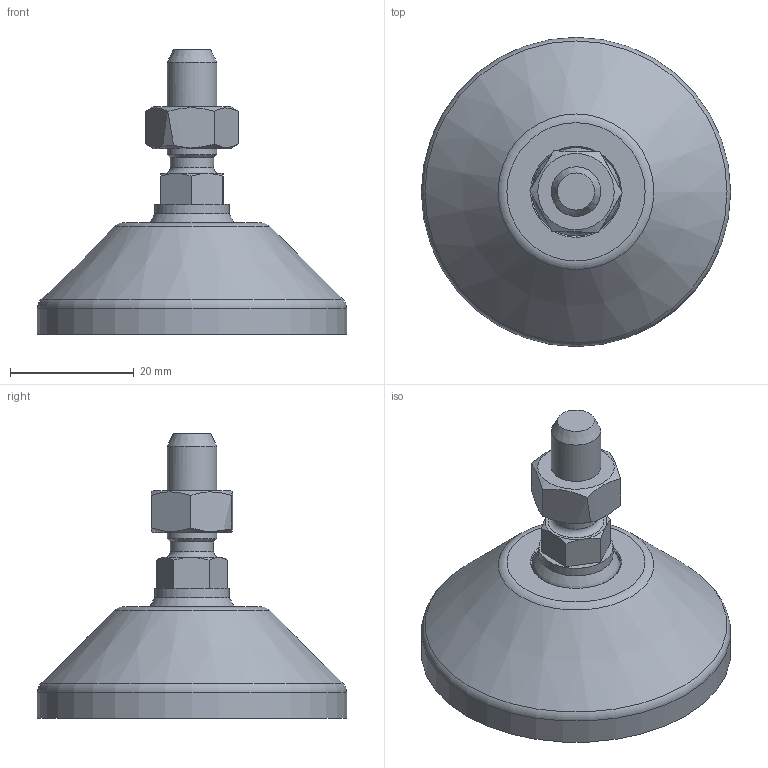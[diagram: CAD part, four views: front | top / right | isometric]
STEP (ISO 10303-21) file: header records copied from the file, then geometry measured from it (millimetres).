
FILE_DESCRIPTION(('STEP AP203'), '1');
FILE_NAME('栖闉罻', '', ('UNSPECIFIED'), ('UNSPECIFIED'), 'C3D Converter', 'C3D Toolkit', '');
FILE_SCHEMA(('CONFIG_CONTROL_DESIGN'));
Length unit declared in the file: millimetre
Products named in the file (4): A00015.1050; A00020.108040
Assembly tree (3 placements, depth 3):
  (unnamed)
    A00015.1050
    A00020.108040
      (unnamed)
Bounding box: 50 x 50 x 46 mm (x, y, z)
Volume: 19240 mm3; surface area: 9747.3 mm2
Topology: 3 solids, 3 shells, 182 faces, 500 edges, 336 vertices
Faces by surface type: plane 86, cylinder 50, torus 30, cone 14, sphere 2
Full cylindrical faces by diameter (mm): 4 x8, 6.647 x1, 7 x1, 8 x1, 12 x1, 14.3 x1, 15 x2, 15.5 x1, 39 x1, 50 x1
Entity records: 9559 total; most frequent: CARTESIAN_POINT 3365, DIRECTION 958, ORIENTED_EDGE 930, EDGE_CURVE 465, AXIS2_PLACEMENT_3D 398, VERTEX_POINT 335, EDGE_LOOP 230, CIRCLE 212
